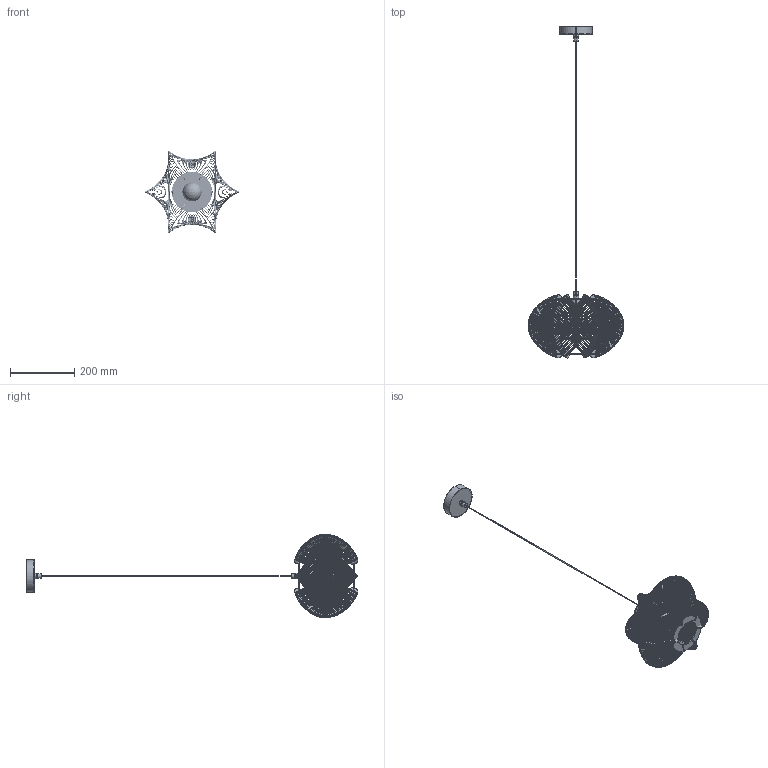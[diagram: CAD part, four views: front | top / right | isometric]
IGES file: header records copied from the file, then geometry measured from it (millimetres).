
Start section: SolidWorks IGES file using analytic representation for surfaces
Global section: file name: F:\燠隴矨\3D\2024-3堎\Java Pendant Light-D30CM.IGS; native system: SolidWorks 2022; preprocessor: SolidWorks 2022; author: MyPC; date: 240329.123904; units: millimetre
Bounding box: 296.82 x 1033.34 x 258.31 mm (x, y, z)
Surface area: 355765.7 mm2 (no closed solid volume)
Topology: 0 solids, 0 shells, 2789 faces, 23980 edges, 23979 vertices
Faces by surface type: bspline 2079, revolution 710
